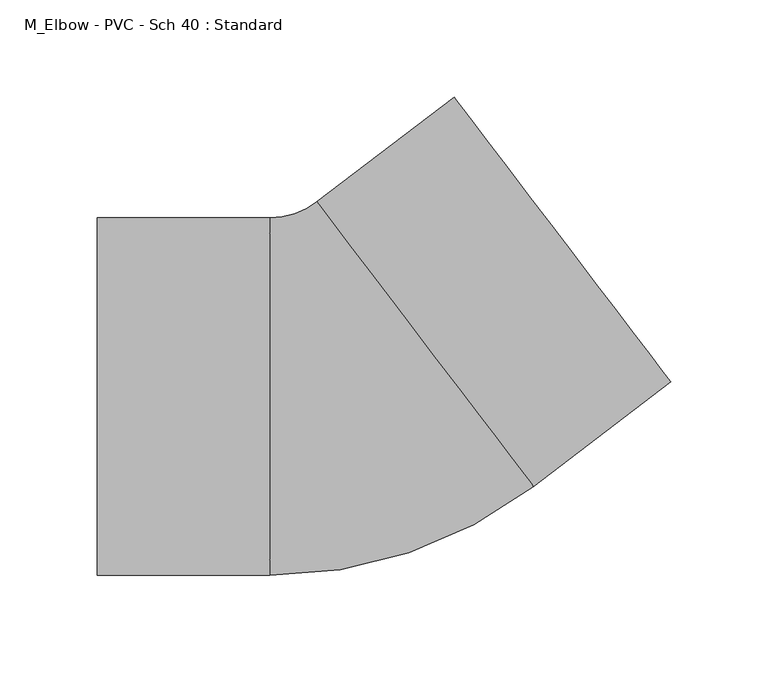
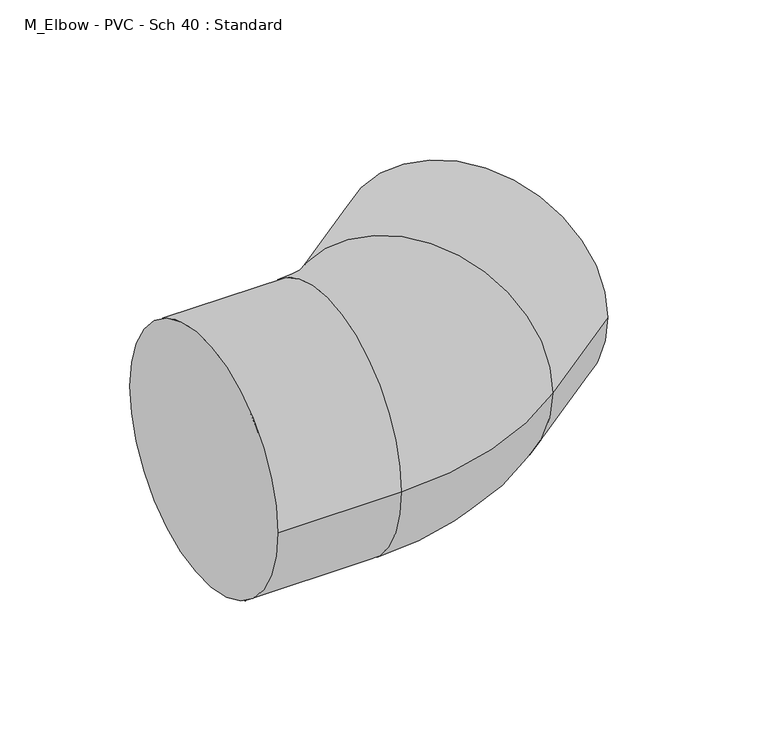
"""IFC4 building model written with IfcOpenShell, lengths in millimetres: pipe fitting geometry, M_Elbow - PVC - Sch 40 : Standard."""

from ifc_helpers import new_model, si_unit, point, frame, origin, place, context, project, spatial, circle_curve, ellipse_curve, trimmed, source, transform, mapped, element, save
from ifc_brep_helpers import plane_surface, cylinder_surface, revolved_surface, advanced_brep


def m_elbow_pvc_sch_40_standard_4b98759f(model_context):
    return source(origin(), model_context, "Body", "AdvancedBrep", [
        advanced_brep(
        [(-133.35, -92.075, 0.0), (-133.35, 92.075, 0.0), (-44.45, -92.075, 0.0), (-44.45, 92.075, 0.0), (-20.4013945, 100.1867817, 0.0), (91.1384438, -46.3399633, 0.0), (161.875493, 7.5068552, 0.0), (50.3356548, 154.0336002, 0.0)],
        [
            (0, 1, circle_curve(frame((-133.35, 0.0, 0.0), z_axis=(-1.0, 0.0, 0.0), x_axis=(0.0, 1.0, 0.0)), 92.075)),
            (1, 0, circle_curve(frame((-133.35, 0.0, 0.0), z_axis=(-1.0, 0.0, 0.0), x_axis=(0.0, 1.0, 0.0)), 92.075)),
            (0, 2),
            (2, 3, circle_curve(frame((-44.45, 0.0, 0.0), z_axis=(-1.0, 0.0, 0.0), x_axis=(0.0, 1.0, 0.0)), 92.075)),
            (3, 1),
            (3, 2, circle_curve(frame((-44.45, 0.0, 0.0), z_axis=(-1.0, 0.0, 0.0), x_axis=(0.0, 1.0, 0.0)), 92.075)),
            (4, 3, circle_curve(frame((-44.45, 131.7787577, 0.0), z_axis=(0.0, 0.0, -1.0), x_axis=(0.0, -1.0, 0.0)), 39.7037577)),
            (2, 5, circle_curve(frame((-44.45, 131.7787577, 0.0), z_axis=(0.0, 0.0, 1.0), x_axis=(0.0, -1.0, 0.0)), 223.8537577)),
            (5, 4, circle_curve(frame((35.3685246, 26.9234092, 0.0), z_axis=(-0.7956923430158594, -0.6057009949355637, 0.0), x_axis=(-0.6057009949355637, 0.7956923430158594, 0.0)), 92.075)),
            (4, 5, circle_curve(frame((35.3685246, 26.9234092, 0.0), z_axis=(-0.7956923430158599, -0.6057009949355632, 0.0), x_axis=(-0.6057009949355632, 0.7956923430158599, 0.0)), 92.075)),
            (6, 7, circle_curve(frame((106.1055739, 80.7702277, 0.0), z_axis=(0.7956923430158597, 0.6057009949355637, 0.0), x_axis=(-0.6057009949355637, 0.7956923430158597, 0.0)), 92.075)),
            (7, 6, circle_curve(frame((106.1055739, 80.7702277, 0.0), z_axis=(0.7956923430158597, 0.6057009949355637, 0.0), x_axis=(-0.6057009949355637, 0.7956923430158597, 0.0)), 92.075)),
            (5, 6),
            (7, 4),
        ],
        [
            plane_surface(frame((-133.35, 0.0, 0.0), z_axis=(-1.0, 0.0, 0.0), x_axis=(0.0, 0.0, 1.0))),
            cylinder_surface(frame((-133.35, 0.0, 0.0), z_axis=(-1.0, 0.0, 0.0), x_axis=(0.0, 1.0, 0.0)), 92.075),
            revolved_surface(trimmed(ellipse_curve(frame((-44.45, 0.0, 0.0), z_axis=(-1.0, 0.0, 0.0), x_axis=(0.0, 1.0, 0.0)), 92.075, 92.075), [point((-44.45, -92.075, 0.0))], [point((-44.45, 92.075, 0.0))], True, "CARTESIAN"), (-44.45, 131.7787577, 0.0), (0.0, 0.0, 1.0)),
            revolved_surface(trimmed(ellipse_curve(frame((-44.45, 0.0, 0.0), z_axis=(-1.0, 0.0, 0.0), x_axis=(0.0, 1.0, 0.0)), 92.075, 92.075), [point((-44.45, 92.075, 0.0))], [point((-44.45, -92.075, 0.0))], True, "CARTESIAN"), (-44.45, 131.7787577, 0.0), (0.0, 0.0, 1.0)),
            plane_surface(frame((106.1055739, 80.7702277, 0.0), z_axis=(0.7956923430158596, 0.6057009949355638, 0.0), x_axis=(0.0, 0.0, 1.0))),
            cylinder_surface(frame((35.3685246, 26.9234092, 0.0), z_axis=(-0.7956923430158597, -0.6057009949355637, 0.0), x_axis=(-0.6057009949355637, 0.7956923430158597, 0.0)), 92.075),
        ],
        [
            (0, [[1, 2]]),
            (1, [[-1, 3, 4, 5]]),
            (1, [[-2, -5, 6, -3]]),
            (2, [[7, -4, 8, 9]]),
            (3, [[-8, -6, -7, 10]]),
            (4, [[11, 12]]),
            (5, [[-9, 13, -12, 14]]),
            (5, [[-10, -14, -11, -13]]),
        ],
    ),
    ])


if __name__ == "__main__":
    model = new_model("IFC4")
    model_context = context("Model", 3, world=origin())
    ifc_project = project(units=[si_unit("LENGTHUNIT", "METRE", prefix="MILLI")], contexts=[model_context])
    site = spatial("IfcSite", under=ifc_project)
    building = spatial("IfcBuilding", under=site)
    placement = place(None, origin())
    m_elbow_pvc_sch_40_standard_shape = m_elbow_pvc_sch_40_standard_4b98759f(model_context)
    element("IfcPipeFitting", 1, ObjectType="M_Elbow - PVC - Sch 40 : Standard", at=placement, inside=building, context=model_context, shape_type="MappedRepresentation", body=[
        mapped(m_elbow_pvc_sch_40_standard_shape, transform((0.0, 0.0, 0.0), x_axis=(1.0, 0.0, 0.0), y_axis=(0.0, 1.0, 0.0), z_axis=(0.0, 0.0, 1.0))),
    ])
    save(model, "model.ifc")
